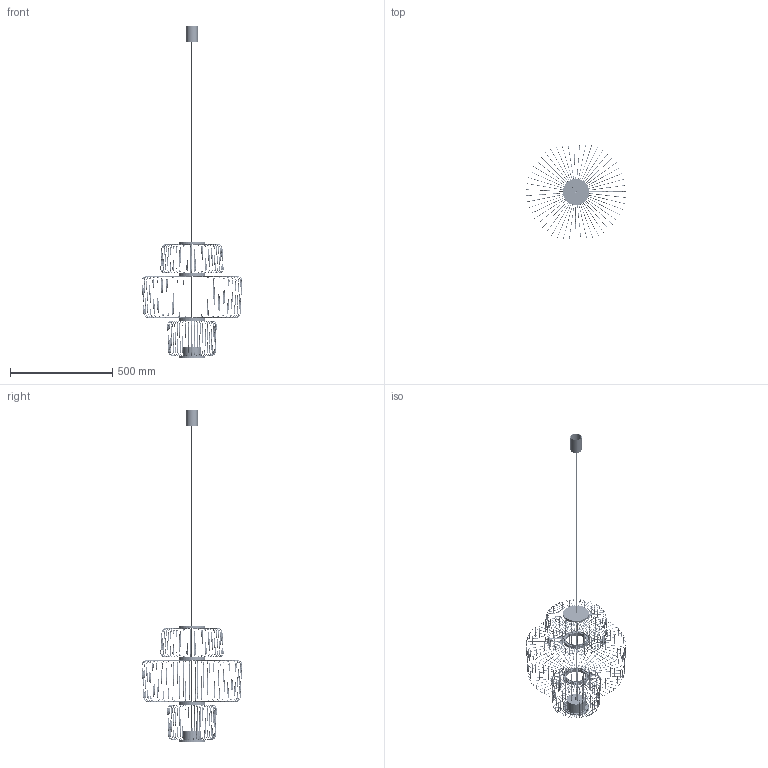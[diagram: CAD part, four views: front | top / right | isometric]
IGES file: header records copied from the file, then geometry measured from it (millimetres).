
Start section: SolidWorks IGES file using analytic representation for surfaces
Global section: file name: C:\Users\anna.bielnik\Desktop\nom a\nome a\nome a pm.IGS; native system: SolidWorks 2024; preprocessor: SolidWorks 2024; author: anna.bielnik; date: 260108.084358; units: millimetre
Bounding box: 489.55 x 489.59 x 1620 mm (x, y, z)
Surface area: 647090.6 mm2 (no closed solid volume)
Topology: 0 solids, 0 shells, 4074 faces, 38748 edges, 38748 vertices
Faces by surface type: revolution 2438, bspline 1636
